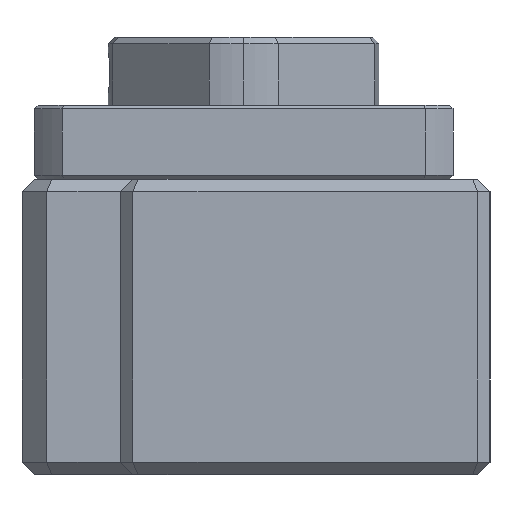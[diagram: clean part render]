
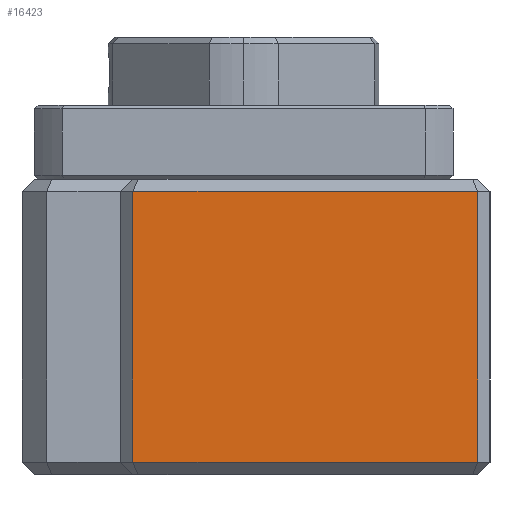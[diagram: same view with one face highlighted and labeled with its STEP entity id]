
A CAD part, left-side view. The second image highlights one B-rep face of the part: STEP entity #16423.
In plain terms, the highlighted planar face has unit normal (-1, 0, 0).
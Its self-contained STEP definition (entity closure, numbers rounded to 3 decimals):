
#9025 = DIRECTION ( 'NONE',  ( 0., 0., -1. ) ) ;
#9026 = VECTOR ( 'NONE', #9025, 1000. ) ;
#9027 = CARTESIAN_POINT ( 'NONE',  ( 0., 29., 24. ) ) ;
#9028 = LINE ( 'NONE', #9027, #9026 ) ;
#9040 = CARTESIAN_POINT ( 'NONE',  ( 0., 29., 1. ) ) ;
#9063 = DIRECTION ( 'NONE',  ( 0., 0., -1. ) ) ;
#9064 = DIRECTION ( 'NONE',  ( 1., 0., 0. ) ) ;
#9065 = CARTESIAN_POINT ( 'NONE',  ( 0., 0., 24. ) ) ;
#9066 = AXIS2_PLACEMENT_3D ( 'NONE', #9065, #9064, #9063 ) ;
#9067 = FACE_OUTER_BOUND ( 'NONE', #16415, .T. ) ;
#9072 = PLANE ( 'NONE',  #9066 ) ;
#9084 = CARTESIAN_POINT ( 'NONE',  ( 0., 29., 23. ) ) ;
#9668 = DIRECTION ( 'NONE',  ( 0., 0., 1. ) ) ;
#9669 = VECTOR ( 'NONE', #9668, 1000. ) ;
#9670 = CARTESIAN_POINT ( 'NONE',  ( 0., 1., 24. ) ) ;
#9671 = LINE ( 'NONE', #9670, #9669 ) ;
#9672 = CARTESIAN_POINT ( 'NONE',  ( 0., 1., 1. ) ) ;
#9673 = DIRECTION ( 'NONE',  ( 0., -1., 0. ) ) ;
#9674 = VECTOR ( 'NONE', #9673, 1000. ) ;
#9675 = CARTESIAN_POINT ( 'NONE',  ( 0., 1., 1. ) ) ;
#9679 = LINE ( 'NONE', #9675, #9674 ) ;
#9725 = DIRECTION ( 'NONE',  ( 0., 1., 0. ) ) ;
#9726 = VECTOR ( 'NONE', #9725, 1000. ) ;
#9727 = CARTESIAN_POINT ( 'NONE',  ( 0., 0., 23. ) ) ;
#9728 = LINE ( 'NONE', #9727, #9726 ) ;
#9729 = CARTESIAN_POINT ( 'NONE',  ( 0., 1., 23. ) ) ;
#16408 = VERTEX_POINT ( 'NONE', #9040 ) ;
#16413 = ORIENTED_EDGE ( 'NONE', *, *, #16416, .T. ) ;
#16415 = EDGE_LOOP ( 'NONE', ( #16413, #16746, #16750, #16753 ) ) ;
#16416 = EDGE_CURVE ( 'NONE', #16418, #16408, #9028, .T. ) ;
#16418 = VERTEX_POINT ( 'NONE', #9084 ) ;
#16423 = ADVANCED_FACE ( 'NONE', ( #9067 ), #9072, .F. ) ;
#16746 = ORIENTED_EDGE ( 'NONE', *, *, #16747, .T. ) ;
#16747 = EDGE_CURVE ( 'NONE', #16408, #16749, #9679, .T. ) ;
#16749 = VERTEX_POINT ( 'NONE', #9672 ) ;
#16750 = ORIENTED_EDGE ( 'NONE', *, *, #16751, .T. ) ;
#16751 = EDGE_CURVE ( 'NONE', #16749, #16752, #9671, .T. ) ;
#16752 = VERTEX_POINT ( 'NONE', #9729 ) ;
#16753 = ORIENTED_EDGE ( 'NONE', *, *, #16754, .T. ) ;
#16754 = EDGE_CURVE ( 'NONE', #16752, #16418, #9728, .T. ) ;
